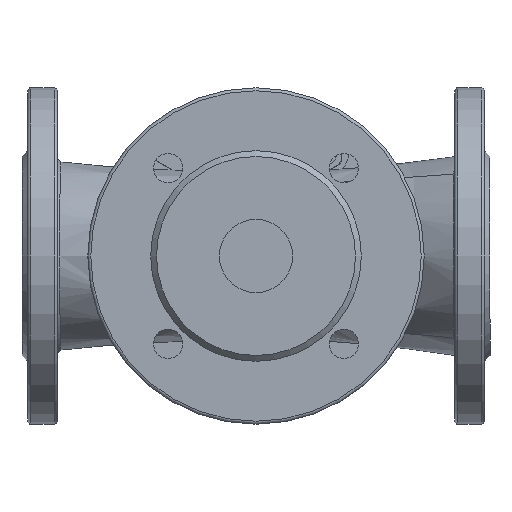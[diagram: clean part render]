
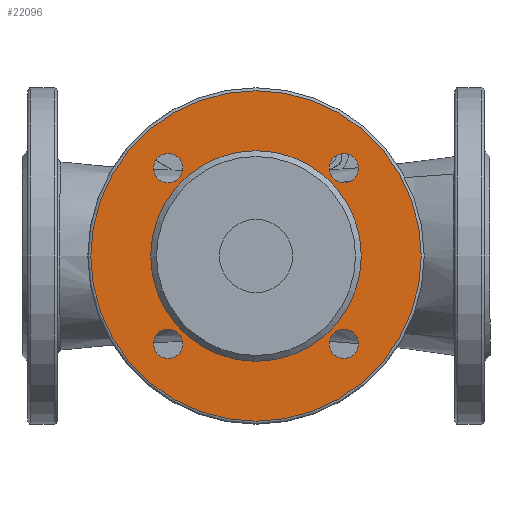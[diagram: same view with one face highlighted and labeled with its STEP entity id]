
A CAD part, front view. The second image highlights one B-rep face of the part: STEP entity #22096.
In plain terms, the highlighted planar face has unit normal (0, -1, 0).
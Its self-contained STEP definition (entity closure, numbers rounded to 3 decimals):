
#997=PLANE('',#23924);
#1210=FACE_BOUND('',#3875,.T.);
#1211=FACE_BOUND('',#3876,.T.);
#1212=FACE_BOUND('',#3877,.T.);
#1213=FACE_BOUND('',#3878,.T.);
#1214=FACE_BOUND('',#3879,.T.);
#2448=FACE_OUTER_BOUND('',#3874,.T.);
#3874=EDGE_LOOP('',(#20485));
#3875=EDGE_LOOP('',(#20486));
#3876=EDGE_LOOP('',(#20487));
#3877=EDGE_LOOP('',(#20488));
#3878=EDGE_LOOP('',(#20489));
#3879=EDGE_LOOP('',(#20490));
#8790=CIRCLE('',#23862,5.);
#8792=CIRCLE('',#23865,5.);
#8794=CIRCLE('',#23868,5.);
#8796=CIRCLE('',#23871,5.);
#8826=CIRCLE('',#23923,36.);
#8827=CIRCLE('',#23925,56.5);
#10925=VERTEX_POINT('',#43627);
#10927=VERTEX_POINT('',#43632);
#10929=VERTEX_POINT('',#43637);
#10931=VERTEX_POINT('',#43642);
#10976=VERTEX_POINT('',#45042);
#10977=VERTEX_POINT('',#45045);
#14111=EDGE_CURVE('',#10925,#10925,#8790,.T.);
#14113=EDGE_CURVE('',#10927,#10927,#8792,.T.);
#14115=EDGE_CURVE('',#10929,#10929,#8794,.T.);
#14117=EDGE_CURVE('',#10931,#10931,#8796,.T.);
#14167=EDGE_CURVE('',#10976,#10976,#8826,.T.);
#14168=EDGE_CURVE('',#10977,#10977,#8827,.T.);
#20485=ORIENTED_EDGE('',*,*,#14168,.F.);
#20486=ORIENTED_EDGE('',*,*,#14111,.T.);
#20487=ORIENTED_EDGE('',*,*,#14113,.T.);
#20488=ORIENTED_EDGE('',*,*,#14115,.T.);
#20489=ORIENTED_EDGE('',*,*,#14117,.T.);
#20490=ORIENTED_EDGE('',*,*,#14167,.F.);
#22096=ADVANCED_FACE('',(#2448,#1210,#1211,#1212,#1213,#1214),#997,.T.);
#23862=AXIS2_PLACEMENT_3D('',#43628,#29212,#29213);
#23865=AXIS2_PLACEMENT_3D('',#43633,#29218,#29219);
#23868=AXIS2_PLACEMENT_3D('',#43638,#29224,#29225);
#23871=AXIS2_PLACEMENT_3D('',#43643,#29230,#29231);
#23923=AXIS2_PLACEMENT_3D('',#45043,#29335,#29336);
#23924=AXIS2_PLACEMENT_3D('',#45044,#29337,#29338);
#23925=AXIS2_PLACEMENT_3D('',#45046,#29339,#29340);
#29212=DIRECTION('center_axis',(0.,1.,0.));
#29213=DIRECTION('ref_axis',(-0.581,0.,0.814));
#29218=DIRECTION('center_axis',(0.,1.,0.));
#29219=DIRECTION('ref_axis',(-0.814,0.,-0.581));
#29224=DIRECTION('center_axis',(0.,1.,0.));
#29225=DIRECTION('ref_axis',(0.581,0.,-0.814));
#29230=DIRECTION('center_axis',(0.,1.,0.));
#29231=DIRECTION('ref_axis',(0.814,0.,0.581));
#29335=DIRECTION('center_axis',(0.,-1.,0.));
#29336=DIRECTION('ref_axis',(0.814,0.,-0.581));
#29337=DIRECTION('center_axis',(0.,-1.,0.));
#29338=DIRECTION('ref_axis',(0.,0.,-1.));
#29339=DIRECTION('center_axis',(0.,1.,0.));
#29340=DIRECTION('ref_axis',(0.,0.,-1.));
#43627=CARTESIAN_POINT('',(1004.229,620.,922.812));
#43628=CARTESIAN_POINT('Origin',(1004.229,620.,917.812));
#43632=CARTESIAN_POINT('',(999.229,620.,857.708));
#43633=CARTESIAN_POINT('Origin',(1004.229,620.,857.708));
#43637=CARTESIAN_POINT('',(1064.333,620.,852.708));
#43638=CARTESIAN_POINT('Origin',(1064.333,620.,857.708));
#43642=CARTESIAN_POINT('',(1069.333,620.,917.812));
#43643=CARTESIAN_POINT('Origin',(1064.333,620.,917.812));
#45042=CARTESIAN_POINT('',(1070.281,620.,887.76));
#45043=CARTESIAN_POINT('Origin',(1034.281,620.,887.76));
#45044=CARTESIAN_POINT('Origin',(977.781,620.,887.76));
#45045=CARTESIAN_POINT('',(1090.781,620.,887.76));
#45046=CARTESIAN_POINT('Origin',(1034.281,620.,887.76));
